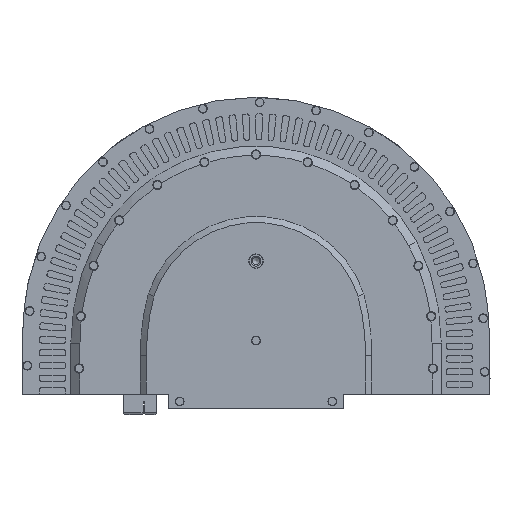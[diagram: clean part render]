
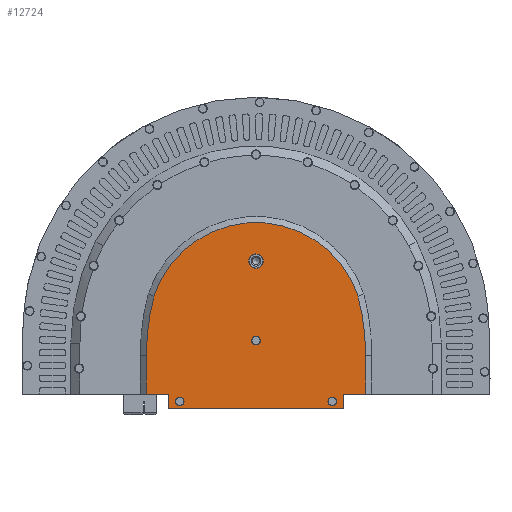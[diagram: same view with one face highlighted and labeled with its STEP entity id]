
A CAD part, left-side view. The second image highlights one B-rep face of the part: STEP entity #12724.
In plain terms, the highlighted planar face has unit normal (-1, 0, 0).
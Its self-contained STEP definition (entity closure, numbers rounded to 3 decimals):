
#487=FACE_BOUND('',#1499,.T.);
#488=FACE_BOUND('',#1500,.T.);
#489=FACE_BOUND('',#1501,.T.);
#490=FACE_BOUND('',#1502,.T.);
#828=FACE_OUTER_BOUND('',#1498,.T.);
#1498=EDGE_LOOP('',(#9697,#9698,#9699,#9700,#9701,#9702,#9703,#9704,#9705,
#9706));
#1499=EDGE_LOOP('',(#9707));
#1500=EDGE_LOOP('',(#9708));
#1501=EDGE_LOOP('',(#9709));
#1502=EDGE_LOOP('',(#9710));
#2385=LINE('',#20750,#3267);
#2399=LINE('',#20819,#3281);
#2400=LINE('',#20821,#3282);
#2401=LINE('',#20823,#3283);
#2402=LINE('',#20825,#3284);
#2403=LINE('',#20826,#3285);
#2404=LINE('',#20828,#3286);
#3267=VECTOR('',#15883,10.);
#3281=VECTOR('',#15959,10.);
#3282=VECTOR('',#15960,10.);
#3283=VECTOR('',#15961,10.);
#3284=VECTOR('',#15962,10.);
#3285=VECTOR('',#15963,10.);
#3286=VECTOR('',#15964,10.);
#4148=CIRCLE('',#13630,4.75);
#4150=CIRCLE('',#13634,156.);
#4151=CIRCLE('',#13635,70.5);
#4152=CIRCLE('',#13636,156.);
#4153=CIRCLE('',#13637,2.85);
#4154=CIRCLE('',#13638,2.85);
#4155=CIRCLE('',#13639,2.85);
#5418=VERTEX_POINT('',#20733);
#5425=VERTEX_POINT('',#20748);
#5446=VERTEX_POINT('',#20810);
#5448=VERTEX_POINT('',#20817);
#5449=VERTEX_POINT('',#20818);
#5450=VERTEX_POINT('',#20820);
#5451=VERTEX_POINT('',#20822);
#5452=VERTEX_POINT('',#20824);
#5453=VERTEX_POINT('',#20827);
#5454=VERTEX_POINT('',#20829);
#5455=VERTEX_POINT('',#20831);
#5456=VERTEX_POINT('',#20834);
#5457=VERTEX_POINT('',#20836);
#5458=VERTEX_POINT('',#20838);
#7099=EDGE_CURVE('',#5418,#5425,#2385,.T.);
#7124=EDGE_CURVE('',#5446,#5446,#4148,.T.);
#7127=EDGE_CURVE('',#5448,#5449,#2399,.T.);
#7128=EDGE_CURVE('',#5448,#5450,#2400,.T.);
#7129=EDGE_CURVE('',#5450,#5451,#2401,.T.);
#7130=EDGE_CURVE('',#5451,#5452,#2402,.T.);
#7131=EDGE_CURVE('',#5452,#5418,#2403,.T.);
#7132=EDGE_CURVE('',#5453,#5425,#2404,.T.);
#7133=EDGE_CURVE('',#5454,#5453,#4150,.T.);
#7134=EDGE_CURVE('',#5455,#5454,#4151,.T.);
#7135=EDGE_CURVE('',#5449,#5455,#4152,.T.);
#7136=EDGE_CURVE('',#5456,#5456,#4153,.T.);
#7137=EDGE_CURVE('',#5457,#5457,#4154,.T.);
#7138=EDGE_CURVE('',#5458,#5458,#4155,.T.);
#9697=ORIENTED_EDGE('',*,*,#7127,.F.);
#9698=ORIENTED_EDGE('',*,*,#7128,.T.);
#9699=ORIENTED_EDGE('',*,*,#7129,.T.);
#9700=ORIENTED_EDGE('',*,*,#7130,.T.);
#9701=ORIENTED_EDGE('',*,*,#7131,.T.);
#9702=ORIENTED_EDGE('',*,*,#7099,.T.);
#9703=ORIENTED_EDGE('',*,*,#7132,.F.);
#9704=ORIENTED_EDGE('',*,*,#7133,.F.);
#9705=ORIENTED_EDGE('',*,*,#7134,.F.);
#9706=ORIENTED_EDGE('',*,*,#7135,.F.);
#9707=ORIENTED_EDGE('',*,*,#7136,.T.);
#9708=ORIENTED_EDGE('',*,*,#7137,.T.);
#9709=ORIENTED_EDGE('',*,*,#7138,.T.);
#9710=ORIENTED_EDGE('',*,*,#7124,.T.);
#12361=PLANE('',#13633);
#12724=ADVANCED_FACE('',(#828,#487,#488,#489,#490),#12361,.F.);
#13630=AXIS2_PLACEMENT_3D('',#20811,#15950,#15951);
#13633=AXIS2_PLACEMENT_3D('',#20816,#15957,#15958);
#13634=AXIS2_PLACEMENT_3D('',#20830,#15965,#15966);
#13635=AXIS2_PLACEMENT_3D('',#20832,#15967,#15968);
#13636=AXIS2_PLACEMENT_3D('',#20833,#15969,#15970);
#13637=AXIS2_PLACEMENT_3D('',#20835,#15971,#15972);
#13638=AXIS2_PLACEMENT_3D('',#20837,#15973,#15974);
#13639=AXIS2_PLACEMENT_3D('',#20839,#15975,#15976);
#15883=DIRECTION('',(0.,-1.,0.));
#15950=DIRECTION('center_axis',(1.,0.,0.));
#15951=DIRECTION('ref_axis',(0.,0.,-1.));
#15957=DIRECTION('center_axis',(1.,0.,0.));
#15958=DIRECTION('ref_axis',(0.,0.,-1.));
#15959=DIRECTION('',(0.,0.,1.));
#15960=DIRECTION('',(0.,-1.,0.));
#15961=DIRECTION('',(0.,0.,-1.));
#15962=DIRECTION('',(0.,-1.,0.));
#15963=DIRECTION('',(0.,0.,1.));
#15964=DIRECTION('',(0.,0.,-1.));
#15965=DIRECTION('center_axis',(1.,0.,0.));
#15966=DIRECTION('ref_axis',(0.,-1.,0.));
#15967=DIRECTION('center_axis',(1.,0.,0.));
#15968=DIRECTION('ref_axis',(0.,-0.949,0.316));
#15969=DIRECTION('center_axis',(1.,0.,0.));
#15970=DIRECTION('ref_axis',(0.,0.968,0.252));
#15971=DIRECTION('center_axis',(1.,0.,0.));
#15972=DIRECTION('ref_axis',(0.,0.,-1.));
#15973=DIRECTION('center_axis',(1.,0.,0.));
#15974=DIRECTION('ref_axis',(0.,0.,-1.));
#15975=DIRECTION('center_axis',(1.,0.,0.));
#15976=DIRECTION('ref_axis',(0.,0.,-1.));
#20733=CARTESIAN_POINT('',(-22.05,-57.35,-0.1));
#20748=CARTESIAN_POINT('',(-22.05,-71.85,-0.1));
#20750=CARTESIAN_POINT('',(-22.05,-57.35,-0.1));
#20810=CARTESIAN_POINT('',(-22.05,0.,91.75));
#20811=CARTESIAN_POINT('Origin',(-22.05,0.,87.));
#20816=CARTESIAN_POINT('Origin',(-22.05,0.,37.684));
#20817=CARTESIAN_POINT('',(-22.05,71.85,-0.1));
#20818=CARTESIAN_POINT('',(-22.05,71.85,25.));
#20819=CARTESIAN_POINT('',(-22.05,71.85,31.342));
#20820=CARTESIAN_POINT('',(-22.05,57.35,-0.1));
#20821=CARTESIAN_POINT('',(-22.05,75.85,-0.1));
#20822=CARTESIAN_POINT('',(-22.05,57.35,-9.8));
#20823=CARTESIAN_POINT('',(-22.05,57.35,-0.1));
#20824=CARTESIAN_POINT('',(-22.05,-57.35,-9.8));
#20825=CARTESIAN_POINT('',(-22.05,57.35,-9.8));
#20826=CARTESIAN_POINT('',(-22.05,-57.35,-9.8));
#20827=CARTESIAN_POINT('',(-22.05,-71.85,25.));
#20828=CARTESIAN_POINT('',(-22.05,-71.85,18.792));
#20829=CARTESIAN_POINT('',(-22.05,-66.837,64.229));
#20830=CARTESIAN_POINT('Origin',(-22.05,84.15,25.));
#20831=CARTESIAN_POINT('',(-22.05,66.837,64.229));
#20832=CARTESIAN_POINT('Origin',(-22.05,0.,41.8));
#20833=CARTESIAN_POINT('Origin',(-22.05,-84.15,25.));
#20834=CARTESIAN_POINT('',(-22.05,-50.,-2.05));
#20835=CARTESIAN_POINT('Origin',(-22.05,-50.,-4.9));
#20836=CARTESIAN_POINT('',(-22.05,50.,-2.05));
#20837=CARTESIAN_POINT('Origin',(-22.05,50.,-4.9));
#20838=CARTESIAN_POINT('',(-22.05,0.,37.85));
#20839=CARTESIAN_POINT('Origin',(-22.05,0.,35.));
